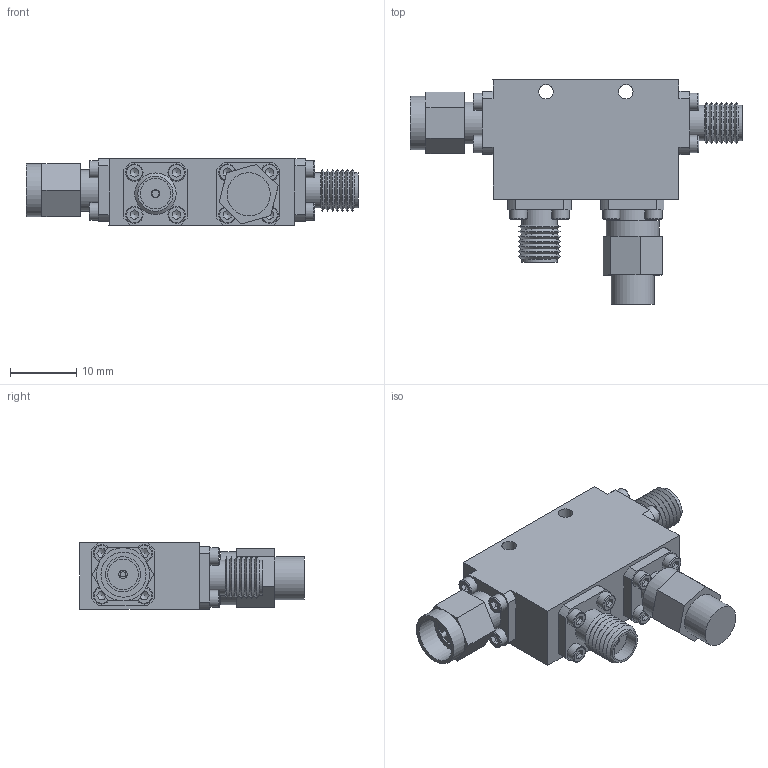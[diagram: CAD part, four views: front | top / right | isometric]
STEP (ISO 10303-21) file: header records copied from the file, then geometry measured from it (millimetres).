
FILE_DESCRIPTION(/* description */ ('Unknown'),/* implementation_level */ '2;1');
FILE_NAME(/* name */ 'DETI_MICROWAVE_DIRECTIONAL_COUPLER_011056_STEP',/* time_stamp */ '2021-06-08T14:19:01+02:00',/* author */ ('ALG'),/* organization */ ('DETI'),/* preprocessor_version */ 'ST-DEVELOPER v16.7',/* originating_system */ 'Solid Edge',/* authorisation */ 'Unknown');
FILE_SCHEMA (('AUTOMOTIVE_DESIGN {1 0 10303 214 3 1 1}'));
Length unit declared in the file: millimetre
Products named in the file (1): CD-1-8000-8500-30-50-SM-SF-SF2
Bounding box: 50 x 33.8 x 10 mm (x, y, z)
Volume: 6915.2 mm3; surface area: 4357.2 mm2
Topology: 1 solids, 22 shells, 387 faces, 886 edges, 579 vertices
Faces by surface type: plane 221, cylinder 98, cone 52, torus 16
Full cylindrical faces by diameter (mm): 0.8 x2, 1.1 x3, 1.27 x7, 1.4 x16, 1.8 x16, 2.2 x2, 2.6 x16, 4.1 x4, 4.6 x3, 5.3 x6, 6.3 x1, 6.5 x1, 6.8 x2, 8 x2
Entity records: 12480 total; most frequent: CARTESIAN_POINT 1876, DIRECTION 1608, ORIENTED_EDGE 1342, EDGE_CURVE 671, AXIS2_PLACEMENT_3D 645, FACE_BOUND 632, EDGE_LOOP 616, VERTEX_POINT 529
